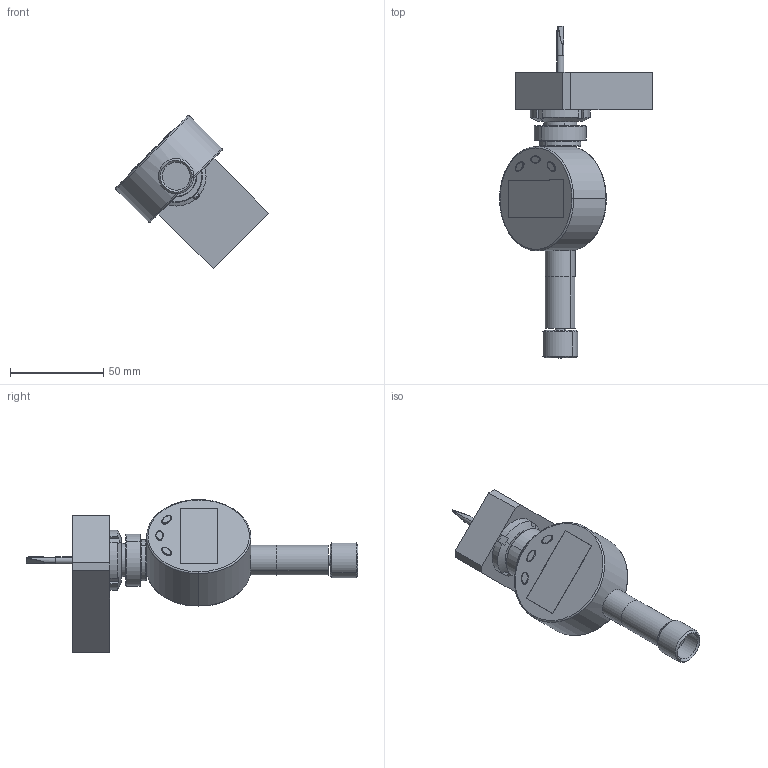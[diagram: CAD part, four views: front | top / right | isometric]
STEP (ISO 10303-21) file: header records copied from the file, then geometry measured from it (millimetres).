
FILE_DESCRIPTION(('CATIA V5 STEP Exchange'),'2;1');
FILE_NAME('C:\Dokumente und Einstellungen\Administrator\Desktop\deep-tech-eng\Kontakte\D\DTE\VORLAGEN\Downloadinfos_von_DTE\S0003_ZSB_MESSUHR_STECKBAR_gerade\S0003_ZSB_MESSUHR_STECKBAR_gerade_Schwert_AllCATPart.stp','2010-11-07T17:53:02+00:00',('none'),('none'),'CATIA Version 5 Release 19 GA (IN-10)','CATIA V5 STEP AP203','none');
FILE_SCHEMA(('CONFIG_CONTROL_DESIGN'));
Length unit declared in the file: millimetre
Products named in the file (1): S0003_ZSB_MESSUHR_STECKBAR_gerade_Schwert_AllCATPart
Bounding box: 82.06 x 178.2 x 82.06 mm (x, y, z)
Volume: 212399.9 mm3; surface area: 61641.8 mm2
Topology: 19 solids, 21 shells, 425 faces, 944 edges, 576 vertices
Faces by surface type: cylinder 130, plane 109, cone 80, torus 46, bspline 40, extrusion 12, sphere 8
Entity records: 16625 total; most frequent: CARTESIAN_POINT 8053, ORIENTED_EDGE 1868, DIRECTION 1378, EDGE_CURVE 934, AXIS2_PLACEMENT_3D 719, VERTEX_POINT 573, EDGE_LOOP 475, ADVANCED_FACE 425
